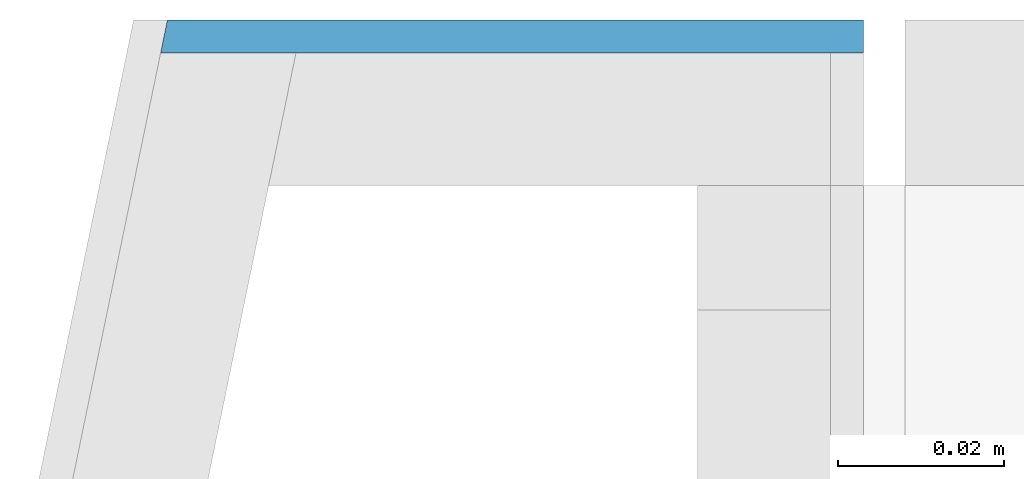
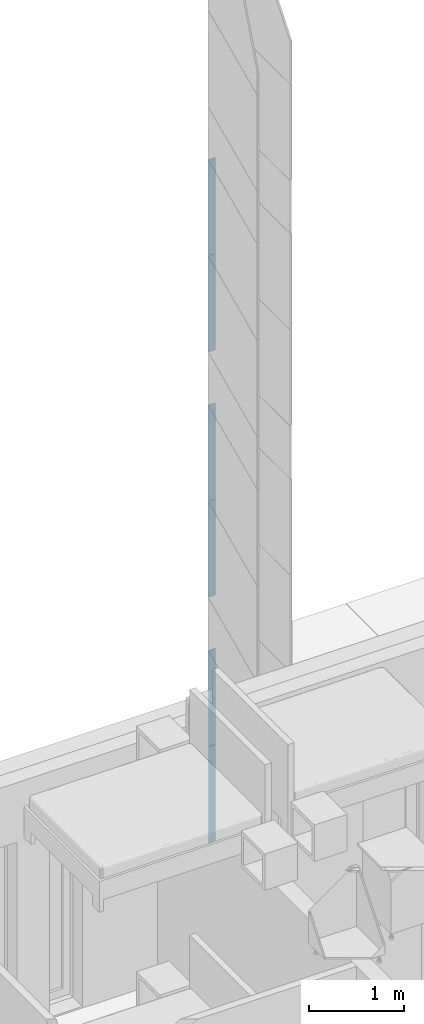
# One storey, part 21 of 125: 6 building element parts, 1 element without a shape of its own.
"""IFC2X3 building model written with IfcOpenShell, lengths in millimetres."""

from ifc_helpers import new_model, entity, si_unit, converted_unit, direction, frame, origin, place, context, subcontext, project, spatial, polyline, outline, extrude, material, type_object, element, aggregate, save


model = new_model("IFC2X3")

# Units and contexts
model_context = context("Model", 3, precision=0.01, world=origin(), true_north=direction((6.123233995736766e-17, 1.0)))
plan_context = context("Plan", 3, precision=0.01, world=origin(), true_north=direction((6.123233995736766e-17, 1.0)))
body_context = subcontext(model_context, "Body", "Model", "MODEL_VIEW")
ifc_project = project(units=[si_unit("LENGTHUNIT", "METRE", prefix="MILLI"), converted_unit("PLANEANGLEUNIT", "DEGREE", entity("IfcPlaneAngleMeasure", 0.017453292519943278), si_unit("PLANEANGLEUNIT", "RADIAN"), dimensions=[0, 0, 0, 0, 0, 0, 0]), si_unit("AREAUNIT", "SQUARE_METRE")], contexts=[model_context, plan_context])

# Site, building, storey
site_placement = place(None, origin())
site = spatial("IfcSite", under=ifc_project, at=site_placement, Name="Default", CompositionType="ELEMENT")
building_placement = place(site_placement, origin())
building = spatial("IfcBuilding", under=site, at=building_placement, CompositionType="ELEMENT")
storey_placement = place(building_placement, frame((0.0, 0.0, 3125.0)))
storey = spatial("IfcBuildingStorey", under=building, at=storey_placement, Name="2K", CompositionType="ELEMENT", Elevation=3125.0)

# Wall, building element parts
wall_type = type_object("IfcWallType", Name="Basic Wall:VS-komposiit", PredefinedType="STANDARD")
wall_placement = place(storey_placement, frame((4963.640832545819, 17442.0, -1010.0)))
wall = element("IfcWall", 1, at=wall_placement, inside=storey, type_object=wall_type, Name="Basic Wall:VS-komposiit", ObjectType="Basic Wall:VS-komposiit")
ifc_material = material(Name="_K. Välisviimistlus. Alumiinium-komposiitplaat")
building_element_part_1_placement = place(wall_placement, origin())
building_element_part_1 = element("IfcBuildingElementPart", 2, at=building_element_part_1_placement, material=ifc_material, Name="Part", context=body_context, shape_type="SweptSolid", body=[
    extrude(outline(polyline([(-42.61260185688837, -2.0), (42.20013519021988, -2.0), (42.20013519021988, 2.0), (-41.78766852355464, 2.0), (-42.61260185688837, -2.0)])), frame((29.57562070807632, 8.0, 927.499999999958)), (0.0, 0.0, 1.0), 1240.0000000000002),
])
building_element_part_2_placement = place(wall_placement, origin())
building_element_part_2 = element("IfcBuildingElementPart", 3, at=building_element_part_2_placement, material=ifc_material, Name="Part", context=body_context, shape_type="SweptSolid", body=[
    extrude(outline(polyline([(-42.61260185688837, -2.0), (42.20013519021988, -2.0), (42.20013519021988, 2.0), (-41.78766852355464, 2.0), (-42.61260185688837, -2.0)])), frame((29.57562070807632, 8.0, 4097.499999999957)), (0.0, 0.0, 1.0), 1240.0000000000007),
])
building_element_part_3_placement = place(wall_placement, origin())
building_element_part_3 = element("IfcBuildingElementPart", 4, at=building_element_part_3_placement, material=ifc_material, Name="Part", context=body_context, shape_type="SweptSolid", body=[
    extrude(outline(polyline([(-42.61260185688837, -2.0), (42.20013519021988, -2.0), (42.20013519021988, 2.0), (-41.78766852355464, 2.0), (-42.61260185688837, -2.0)])), frame((29.57562070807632, 8.0, 2172.4999999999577)), (0.0, 0.0, 1.0), 1240.000000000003),
])
building_element_part_4_placement = place(wall_placement, origin())
building_element_part_4 = element("IfcBuildingElementPart", 5, at=building_element_part_4_placement, material=ifc_material, Name="Part", context=body_context, shape_type="SweptSolid", body=[
    extrude(outline(polyline([(-42.61260185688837, -2.0), (42.20013519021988, -2.0), (42.20013519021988, 2.0), (-41.78766852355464, 2.0), (-42.61260185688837, -2.0)])), frame((29.57562070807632, 8.0, 5342.499999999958)), (0.0, 0.0, 1.0), 1240.0000000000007),
])
building_element_part_5_placement = place(wall_placement, origin())
building_element_part_5 = element("IfcBuildingElementPart", 6, at=building_element_part_5_placement, material=ifc_material, Name="Part", context=body_context, shape_type="SweptSolid", body=[
    extrude(outline(polyline([(-42.61260185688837, -2.0), (42.20013519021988, -2.0), (42.20013519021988, 2.0), (-41.78766852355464, 2.0), (-42.61260185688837, -2.0)])), frame((29.57562070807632, 8.0, 8512.499999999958)), (0.0, 0.0, 1.0), 1240.0000000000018),
])
building_element_part_6_placement = place(wall_placement, origin())
building_element_part_6 = element("IfcBuildingElementPart", 7, at=building_element_part_6_placement, material=ifc_material, Name="Part", context=body_context, shape_type="SweptSolid", body=[
    extrude(outline(polyline([(-42.61260185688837, -2.0), (42.20013519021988, -2.0), (42.20013519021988, 2.0), (-41.78766852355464, 2.0), (-42.61260185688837, -2.0)])), frame((29.57562070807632, 8.0, 7267.4999999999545)), (0.0, 0.0, 1.0), 1240.000000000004),
])
aggregate(wall, [building_element_part_1, building_element_part_2, building_element_part_3, building_element_part_4, building_element_part_5, building_element_part_6])

save(model, "model.ifc")
